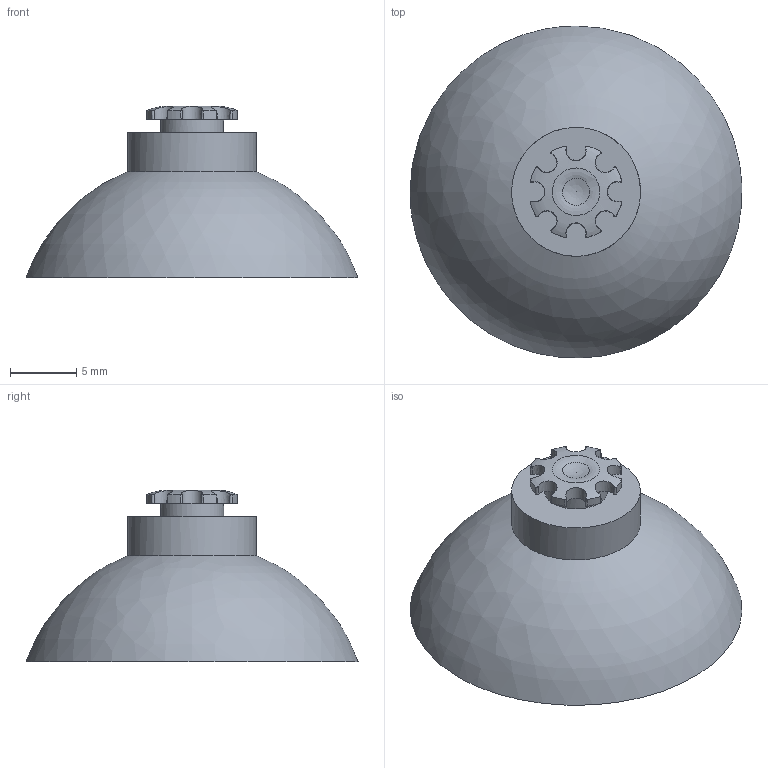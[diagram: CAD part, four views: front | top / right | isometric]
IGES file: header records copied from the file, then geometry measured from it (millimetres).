
Global section: file name: Sub_Rubber; native system: unknown; preprocessor: unknown; author: unknown; organization: unknown; date: 20240903.233506; units: millimetre
Bounding box: 24.99 x 24.99 x 12.94 mm (x, y, z)
Volume: 999.3 mm3; surface area: 1846.2 mm2
Topology: 1 solids, 1 shells, 98 faces, 260 edges, 167 vertices
Faces by surface type: bspline 98
